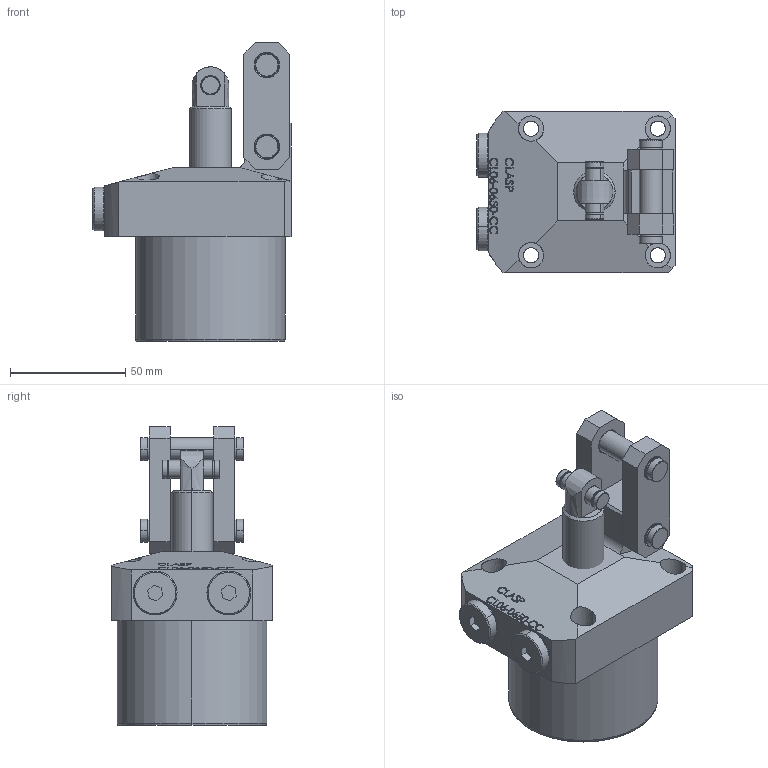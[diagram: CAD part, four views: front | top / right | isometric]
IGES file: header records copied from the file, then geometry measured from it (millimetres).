
Start section: SolidWorks IGES file using analytic representation for surfaces
Global section: file name: D:\karuppas\Clasp\3D model\Link clamp cylinder\CL06-0650  CC\CL06-0650cc.IGS; native system: SolidWorks 2017; preprocessor: SolidWorks 2017; author: pc; date: 220705.230059; units: millimetre
Bounding box: 86 x 70 x 129.75 mm (x, y, z)
Surface area: 51601.8 mm2 (no closed solid volume)
Topology: 0 solids, 0 shells, 426 faces, 6924 edges, 6920 vertices
Faces by surface type: bspline 287, revolution 139
